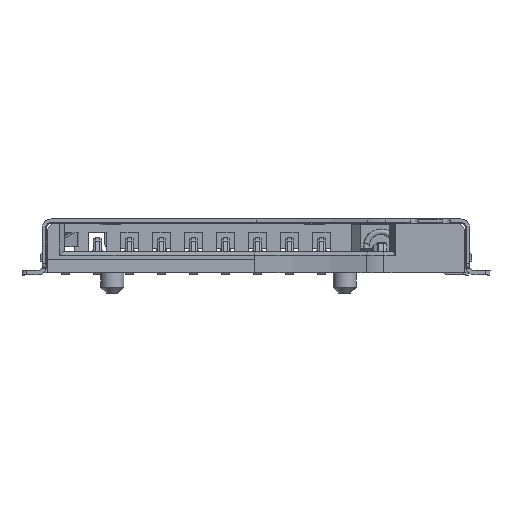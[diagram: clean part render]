
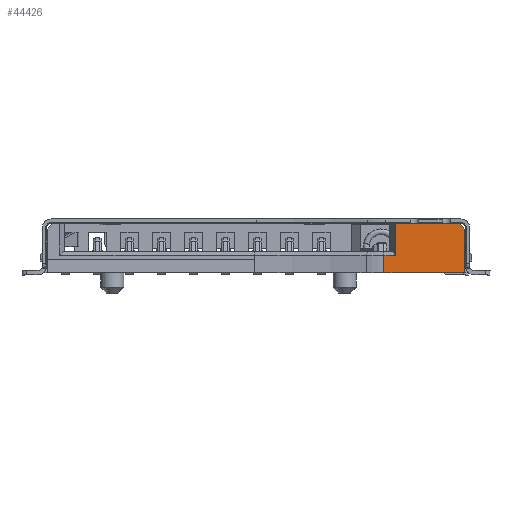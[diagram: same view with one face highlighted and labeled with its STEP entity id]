
A CAD part, front view. The second image highlights one B-rep face of the part: STEP entity #44426.
In plain terms, the highlighted planar face has unit normal (0, -1, 0).
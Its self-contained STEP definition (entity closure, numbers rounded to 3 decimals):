
#1178 = DIRECTION ( 'NONE',  ( 0., 0., 1. ) ) ;
#2469 = CARTESIAN_POINT ( 'NONE',  ( 4.399, -4.4, -0.047 ) ) ;
#4210 = ORIENTED_EDGE ( 'NONE', *, *, #47359, .T. ) ;
#4939 = LINE ( 'NONE', #58053, #38575 ) ;
#5498 = CARTESIAN_POINT ( 'NONE',  ( 4.399, -4.4, -0.047 ) ) ;
#8145 = CARTESIAN_POINT ( 'NONE',  ( 7.178, -4.4, 1.453 ) ) ;
#9762 = VECTOR ( 'NONE', #35720, 1000. ) ;
#12422 = VECTOR ( 'NONE', #32639, 1000. ) ;
#13270 = ORIENTED_EDGE ( 'NONE', *, *, #80293, .F. ) ;
#13295 = ORIENTED_EDGE ( 'NONE', *, *, #37961, .T. ) ;
#13829 = LINE ( 'NONE', #79727, #12422 ) ;
#14810 = DIRECTION ( 'NONE',  ( -1., 0., 0. ) ) ;
#16185 = ORIENTED_EDGE ( 'NONE', *, *, #55160, .T. ) ;
#17550 = CARTESIAN_POINT ( 'NONE',  ( 4.798, -4.4, 1.653 ) ) ;
#22346 = LINE ( 'NONE', #82077, #24465 ) ;
#22811 = VERTEX_POINT ( 'NONE', #54447 ) ;
#24465 = VECTOR ( 'NONE', #81635, 1000. ) ;
#27859 = CARTESIAN_POINT ( 'NONE',  ( -7.182, -4.4, -0.047 ) ) ;
#32639 = DIRECTION ( 'NONE',  ( 0., 0., -1. ) ) ;
#33347 = EDGE_CURVE ( 'NONE', #50846, #86456, #62614, .T. ) ;
#35720 = DIRECTION ( 'NONE',  ( -0.707, 0., 0.707 ) ) ;
#37961 = EDGE_CURVE ( 'NONE', #79981, #42218, #13829, .T. ) ;
#38575 = VECTOR ( 'NONE', #45752, 1000. ) ;
#41540 = DIRECTION ( 'NONE',  ( 0., 0., -1. ) ) ;
#42218 = VERTEX_POINT ( 'NONE', #42443 ) ;
#42443 = CARTESIAN_POINT ( 'NONE',  ( 4.798, -4.4, 0.553 ) ) ;
#44013 = EDGE_CURVE ( 'NONE', #79981, #79730, #4939, .T. ) ;
#44426 = ADVANCED_FACE ( 'NONE', ( #73605 ), #74023, .T. ) ;
#45752 = DIRECTION ( 'NONE',  ( 1., 0., 0. ) ) ;
#47359 = EDGE_CURVE ( 'NONE', #22811, #79730, #69546, .T. ) ;
#49184 = CARTESIAN_POINT ( 'NONE',  ( 4.798, -4.4, 0.553 ) ) ;
#49892 = ORIENTED_EDGE ( 'NONE', *, *, #44013, .F. ) ;
#50846 = VERTEX_POINT ( 'NONE', #5498 ) ;
#52180 = CARTESIAN_POINT ( 'NONE',  ( 6.978, -4.4, 1.653 ) ) ;
#52294 = VECTOR ( 'NONE', #14810, 1000. ) ;
#54447 = CARTESIAN_POINT ( 'NONE',  ( 7.178, -4.4, 1.453 ) ) ;
#54807 = LINE ( 'NONE', #81574, #52294 ) ;
#55160 = EDGE_CURVE ( 'NONE', #42218, #86456, #62353, .T. ) ;
#58053 = CARTESIAN_POINT ( 'NONE',  ( 4.798, -4.4, 1.653 ) ) ;
#59036 = ORIENTED_EDGE ( 'NONE', *, *, #33347, .F. ) ;
#59086 = EDGE_CURVE ( 'NONE', #77478, #50846, #54807, .T. ) ;
#61689 = CARTESIAN_POINT ( 'NONE',  ( 4.399, -4.4, 0.553 ) ) ;
#62353 = LINE ( 'NONE', #49184, #72722 ) ;
#62614 = LINE ( 'NONE', #2469, #67567 ) ;
#67567 = VECTOR ( 'NONE', #1178, 1000. ) ;
#69546 = LINE ( 'NONE', #8145, #9762 ) ;
#72722 = VECTOR ( 'NONE', #76836, 1000. ) ;
#73605 = FACE_OUTER_BOUND ( 'NONE', #74069, .T. ) ;
#74023 = PLANE ( 'NONE',  #83565 ) ;
#74069 = EDGE_LOOP ( 'NONE', ( #13270, #4210, #49892, #13295, #16185, #59036, #78864 ) ) ;
#74105 = CARTESIAN_POINT ( 'NONE',  ( 7.178, -4.4, -0.047 ) ) ;
#76836 = DIRECTION ( 'NONE',  ( -1., 0., 0. ) ) ;
#77478 = VERTEX_POINT ( 'NONE', #74105 ) ;
#78864 = ORIENTED_EDGE ( 'NONE', *, *, #59086, .F. ) ;
#79727 = CARTESIAN_POINT ( 'NONE',  ( 4.798, -4.4, 1.653 ) ) ;
#79730 = VERTEX_POINT ( 'NONE', #52180 ) ;
#79981 = VERTEX_POINT ( 'NONE', #17550 ) ;
#80293 = EDGE_CURVE ( 'NONE', #22811, #77478, #22346, .T. ) ;
#81491 = DIRECTION ( 'NONE',  ( 0., -1., 0. ) ) ;
#81574 = CARTESIAN_POINT ( 'NONE',  ( 7.178, -4.4, -0.047 ) ) ;
#81635 = DIRECTION ( 'NONE',  ( 0., 0., -1. ) ) ;
#82077 = CARTESIAN_POINT ( 'NONE',  ( 7.178, -4.4, 1.453 ) ) ;
#83565 = AXIS2_PLACEMENT_3D ( 'NONE', #27859, #81491, #41540 ) ;
#86456 = VERTEX_POINT ( 'NONE', #61689 ) ;
